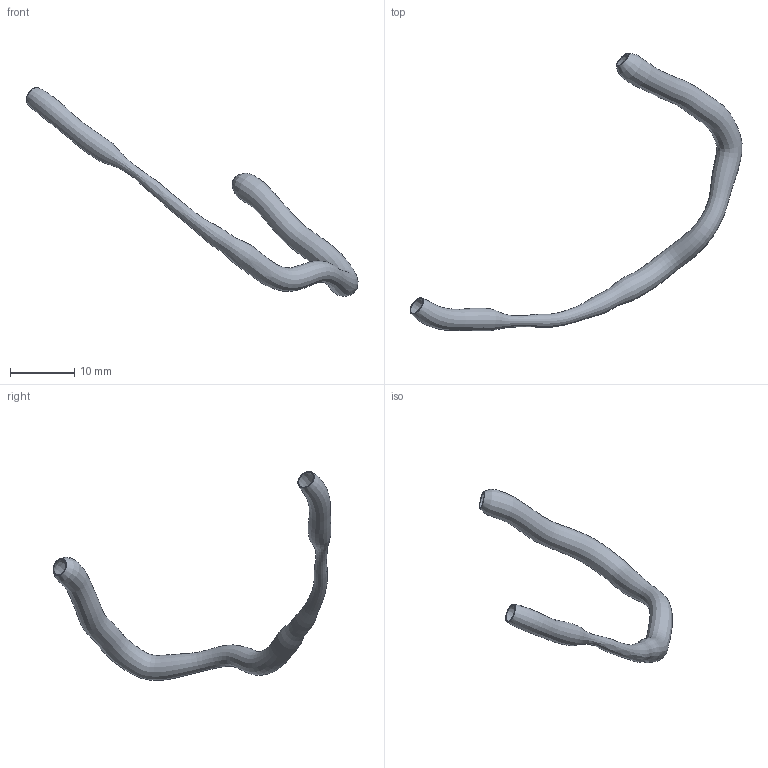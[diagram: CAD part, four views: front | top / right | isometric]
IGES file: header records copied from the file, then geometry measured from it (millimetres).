
Global section: file name: C:\Documents and Settings\Administrator\Desktop\FDA Bifurcation win\RawData_for_IGES\HRCA_Data\20010719.155526\IGES\20010719.155526.RCA.SEG.ES.igs; native system: Rhinoceros ( May 19 2006 ); preprocessor: Trout Lake IGES 012 May 19 2006; date: 100728.211845; units: centimetre
Bounding box: 51.61 x 43.16 x 32.49 mm (x, y, z)
Surface area: 2018.2 mm2 (no closed solid volume)
Topology: 0 solids, 0 shells, 4 faces, 12 edges, 8 vertices
Faces by surface type: bspline 4
